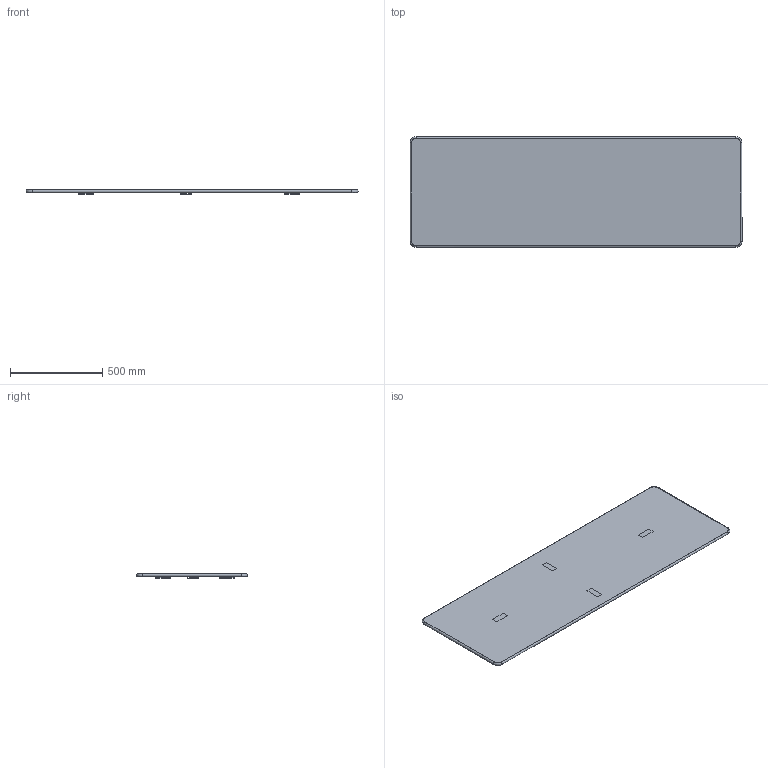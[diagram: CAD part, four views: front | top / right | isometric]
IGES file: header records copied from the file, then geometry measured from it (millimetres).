
Start section: SolidWorks IGES file using NURBS representation for surfaces
Global section: file name: G:\VICCARBE\PRODUCTOS\26-PANELES LAYER\04-MODELADOS (PLANOS)\especiales para 3D\VICCARBE_LayerPanel_1800x600d55.IGS; native system: SolidWorks 2009; preprocessor: SolidWorks 2009; author: RUBEN; date: 110906.114944; units: millimetre
Bounding box: 1801 x 601 x 25.5 mm (x, y, z)
Surface area: 2529395.8 mm2 (no closed solid volume)
Topology: 0 solids, 0 shells, 63 faces, 424 edges, 424 vertices
Faces by surface type: bspline 63
